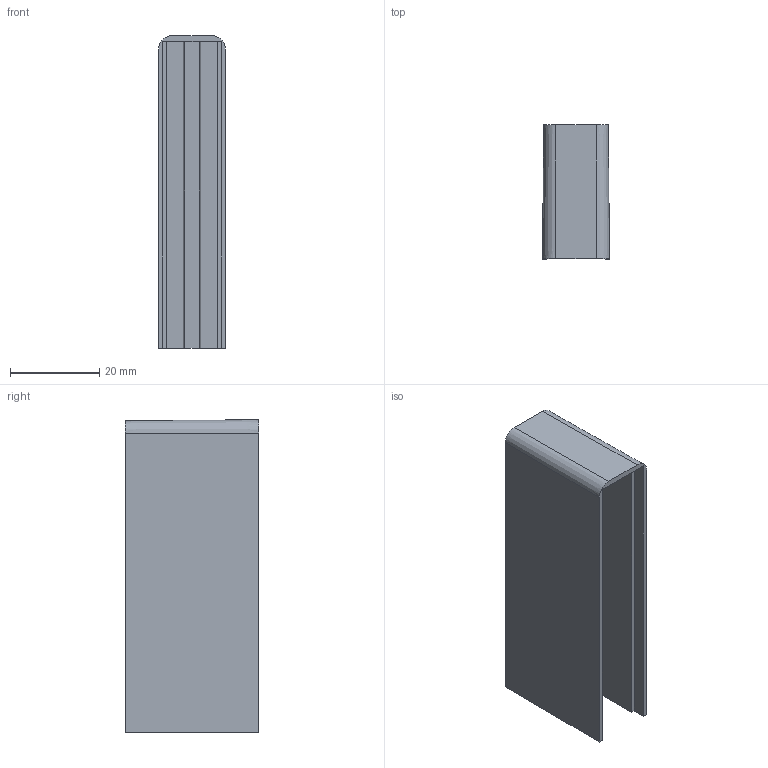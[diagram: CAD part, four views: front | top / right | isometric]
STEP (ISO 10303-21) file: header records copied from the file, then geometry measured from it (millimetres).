
FILE_DESCRIPTION (( 'STEP AP214' ), '1' );
FILE_NAME ('Abdeckkappe Rechteckreling vorne_H194-KP60701100.STEP', '2010-09-16T13:57:42', ( 'grass' ), ( '' ), 'SwSTEP 2.0', 'SolidWorks 2010', '' );
FILE_SCHEMA (( 'AUTOMOTIVE_DESIGN' ));
Length unit declared in the file: millimetre
Products named in the file (1): Abdeckkappe Rechteckreling vorne_H194-KP60701100
Bounding box: 15 x 30 x 70 mm (x, y, z)
Volume: 15566.6 mm3; surface area: 10914.4 mm2
Topology: 1 solids, 1 shells, 25 faces, 66 edges, 44 vertices
Faces by surface type: plane 23, cone 2
Entity records: 798 total; most frequent: CARTESIAN_POINT 136, ORIENTED_EDGE 132, DIRECTION 122, EDGE_CURVE 66, LINE 62, VECTOR 62, VERTEX_POINT 44, AXIS2_PLACEMENT_3D 30
